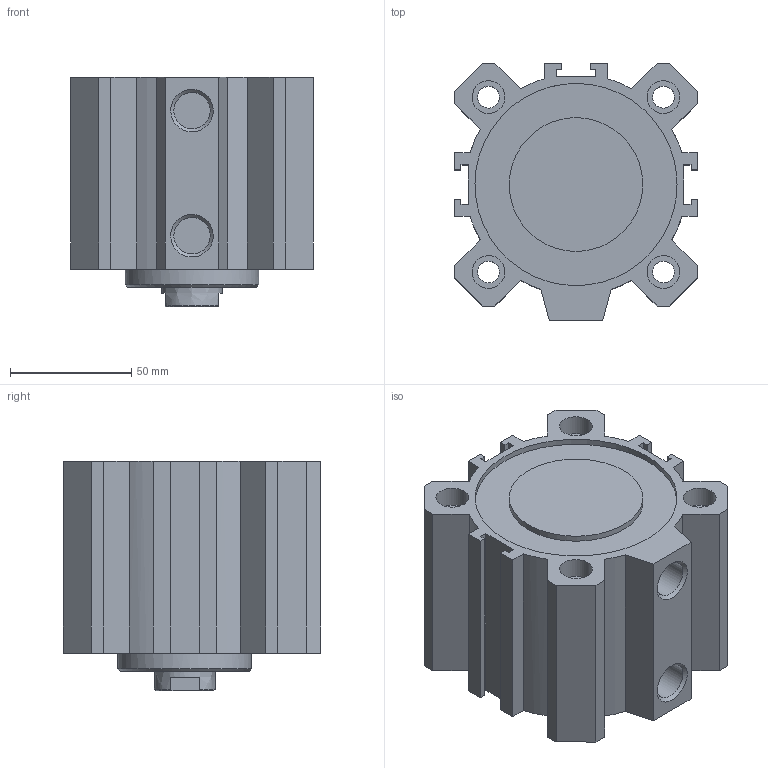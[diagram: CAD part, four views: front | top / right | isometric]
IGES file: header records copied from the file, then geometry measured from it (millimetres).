
Global section: file name: 1511_80_0030; native system: Autodesk Inventor 2014; preprocessor: unknown; author: A. Manieri; date: 20160824.142144; units: millimetre
Bounding box: 100 x 106 x 94.5 mm (x, y, z)
Volume: 511197.7 mm3; surface area: 114993 mm2
Topology: 2 solids, 2 shells, 119 faces, 307 edges, 210 vertices
Faces by surface type: bspline 119
